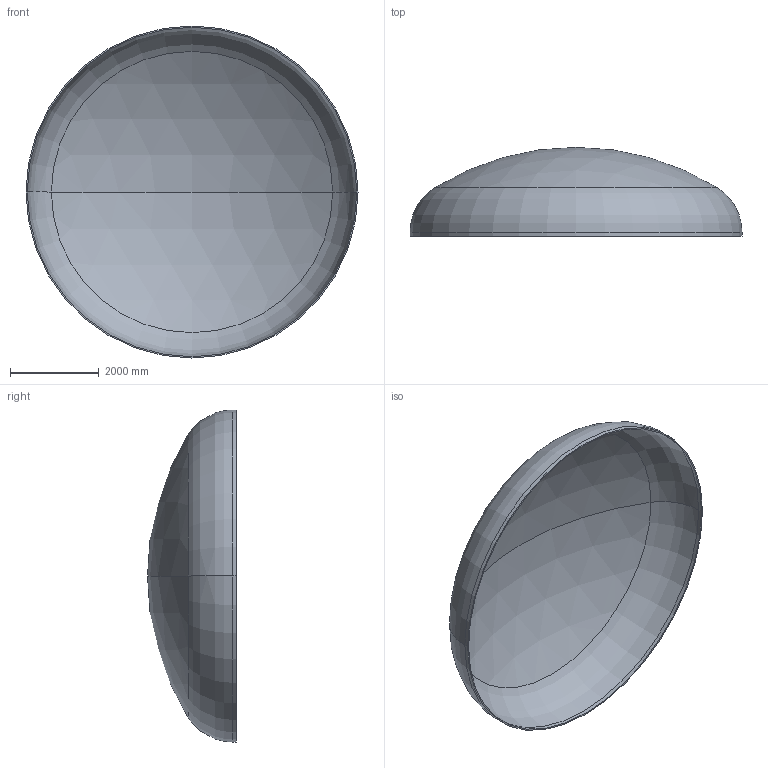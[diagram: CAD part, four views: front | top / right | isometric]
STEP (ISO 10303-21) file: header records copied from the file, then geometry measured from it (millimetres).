
FILE_DESCRIPTION (( 'STEP AP203' ), '1' );
FILE_NAME ('DIN 28013 Korbbogenform_-_Boden DIN 28013 - 7500 x 90 - I - s=29.step', '2016-07-04T10:52:50', ( '' ), ( '' ), 'SwSTEP 2.0', 'SolidWorks 2013', '' );
FILE_SCHEMA (( 'CONFIG_CONTROL_DESIGN' ));
Length unit declared in the file: millimetre
Products named in the file (1): DIN 28013 Korbbogenform_-_Boden DIN 28013 - 7500 x 90 - I - s=29
Bounding box: 7500 x 2009.3 x 7500 mm (x, y, z)
Volume: 1826723050.7 mm3; surface area: 126663265.1 mm2
Topology: 1 solids, 1 shells, 13 faces, 24 edges, 14 vertices
Faces by surface type: torus 4, cylinder 4, sphere 4, plane 1
Entity records: 407 total; most frequent: DIRECTION 72, CARTESIAN_POINT 52, ORIENTED_EDGE 48, AXIS2_PLACEMENT_3D 34, EDGE_CURVE 24, CIRCLE 20, EDGE_LOOP 14, VERTEX_POINT 14
